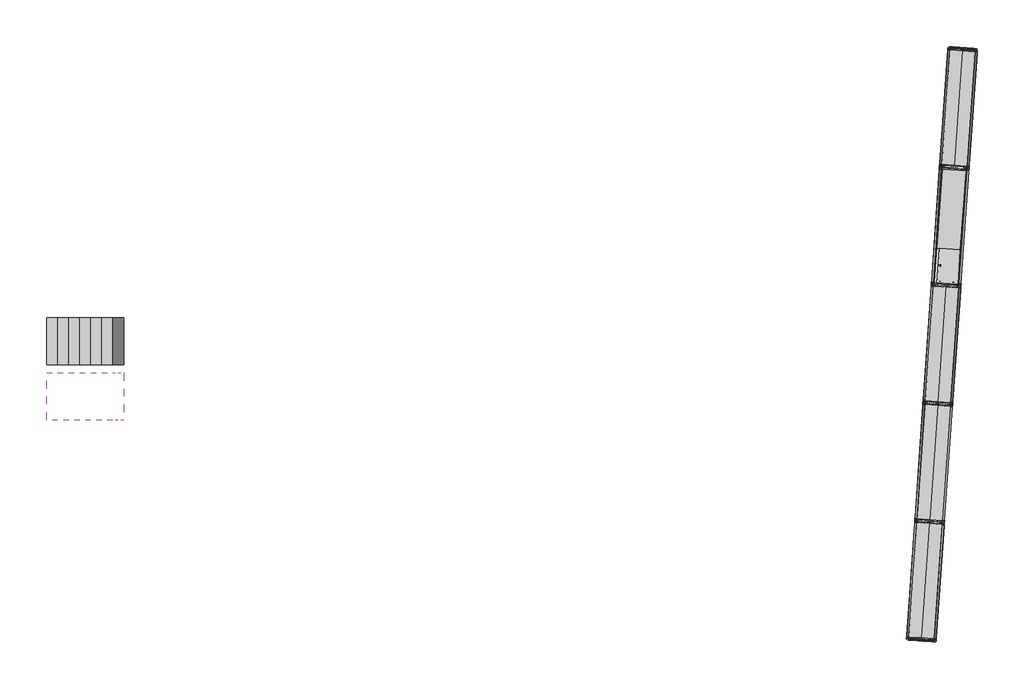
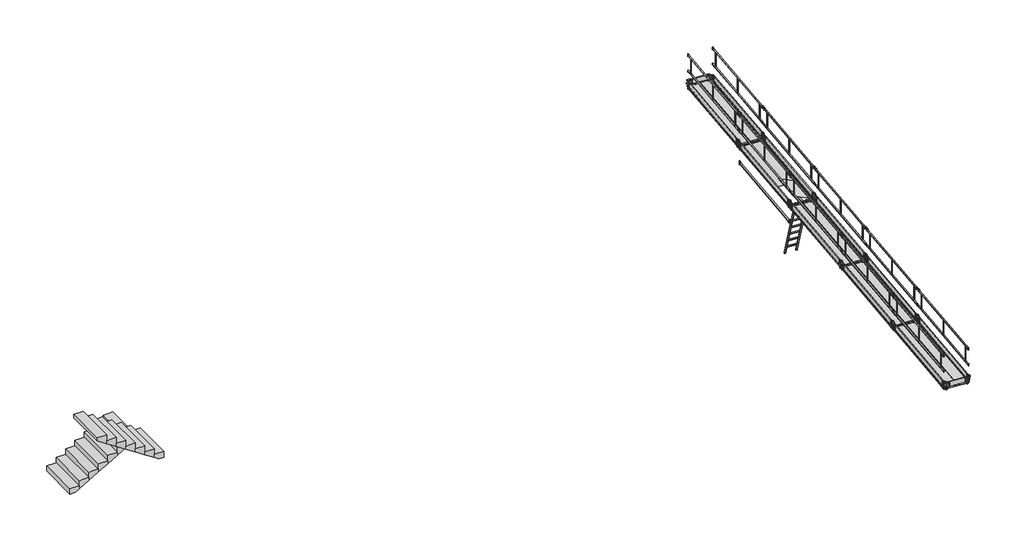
# One storey, incomplete: 55 proxies, 2 stair flights.
"""IFC4 building model written with IfcOpenShell, lengths in millimetres."""

from ifc_helpers import new_model, si_unit, origin, place, context, project, spatial, faceted_brep, transform, mapped, element, save
from components import generic_models_b6224320, generic_models_870fb608, generic_models_6026e95e, generic_models_c9bf4d4e, generic_models_8fe25d63, proxy_03_lisse_70_0da8a22d, proxy_04_lisse_3_m_913477d2

model = new_model("IFC4")

# Units and contexts
model_context = context("Model", 3, world=origin())
ifc_project = project(units=[si_unit("LENGTHUNIT", "METRE", prefix="MILLI")], contexts=[model_context])

# Site, building, storey
site = spatial("IfcSite", under=ifc_project)
building = spatial("IfcBuilding", under=site)
storey = spatial("IfcBuildingStorey", under=building, Name="05-Plateau 5", Elevation=8400.0)

# Proxies
placement = place(None, origin())
generic_models_shape = generic_models_b6224320(model_context)
element("IfcBuildingElementProxy", 1, Name="05-Plateau 3.00 m : JPA Plateau Galva", ObjectType="05-Plateau 3.00 m : JPA Plateau Galva", at=placement, inside=storey, context=model_context, shape_type="MappedRepresentation", body=[
    mapped(generic_models_shape, transform((17696.6144519, 11330.0091436, 8400.0), x_axis=(0.06975647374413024, 0.997564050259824, 0.0), y_axis=(-0.997564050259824, 0.06975647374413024, 0.0), z_axis=(0.0, 0.0, 1.0))),
])
element("IfcBuildingElementProxy", 2, Name="05-Plateau 3.00 m : JPA Plateau Galva", ObjectType="05-Plateau 3.00 m : JPA Plateau Galva", at=placement, inside=storey, context=model_context, shape_type="MappedRepresentation", body=[
    mapped(generic_models_shape, transform((18015.8349479, 11307.687072, 8400.0), x_axis=(0.06975647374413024, 0.997564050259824, 0.0), y_axis=(-0.997564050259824, 0.06975647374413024, 0.0), z_axis=(0.0, 0.0, 1.0))),
])
element("IfcBuildingElementProxy", 3, Name="05-Plateau 3.00 m : JPA Plateau Galva", ObjectType="05-Plateau 3.00 m : JPA Plateau Galva", at=placement, inside=storey, context=model_context, shape_type="MappedRepresentation", body=[
    mapped(generic_models_shape, transform((18115.6220564, 17322.0970558, 8400.0), x_axis=(0.06975647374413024, 0.997564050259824, 0.0), y_axis=(-0.997564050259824, 0.06975647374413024, 0.0), z_axis=(0.0, 0.0, 1.0))),
])
element("IfcBuildingElementProxy", 4, Name="05-Plateau 3.00 m : JPA Plateau Galva", ObjectType="05-Plateau 3.00 m : JPA Plateau Galva", at=placement, inside=storey, context=model_context, shape_type="MappedRepresentation", body=[
    mapped(generic_models_shape, transform((18434.8425525, 17299.7749842, 8400.0), x_axis=(0.06975647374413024, 0.997564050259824, 0.0), y_axis=(-0.997564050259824, 0.06975647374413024, 0.0), z_axis=(0.0, 0.0, 1.0))),
])
element("IfcBuildingElementProxy", 5, Name="05-Plateau 3.00 m : JPA Plateau Galva", ObjectType="05-Plateau 3.00 m : JPA Plateau Galva", at=placement, inside=storey, context=model_context, shape_type="MappedRepresentation", body=[
    mapped(generic_models_shape, transform((17487.1106496, 8333.9651875, 8400.0), x_axis=(0.06975647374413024, 0.997564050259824, 0.0), y_axis=(-0.997564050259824, 0.06975647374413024, 0.0), z_axis=(0.0, 0.0, 1.0))),
])
element("IfcBuildingElementProxy", 6, Name="05-Plateau 3.00 m : JPA Plateau Galva", ObjectType="05-Plateau 3.00 m : JPA Plateau Galva", at=placement, inside=storey, context=model_context, shape_type="MappedRepresentation", body=[
    mapped(generic_models_shape, transform((17806.3311456, 8311.6431159, 8400.0), x_axis=(0.06975647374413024, 0.997564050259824, 0.0), y_axis=(-0.997564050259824, 0.06975647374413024, 0.0), z_axis=(0.0, 0.0, 1.0))),
])
element("IfcBuildingElementProxy", 7, Name="05-Plateau 3.00 m : JPA Plateau Galva", ObjectType="05-Plateau 3.00 m : JPA Plateau Galva", at=placement, inside=storey, context=model_context, shape_type="MappedRepresentation", body=[
    mapped(generic_models_shape, transform((17277.6068473, 5337.9212313, 8400.0), x_axis=(0.06975647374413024, 0.997564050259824, 0.0), y_axis=(-0.997564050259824, 0.06975647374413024, 0.0), z_axis=(0.0, 0.0, 1.0))),
])
element("IfcBuildingElementProxy", 8, Name="05-Plateau 3.00 m : JPA Plateau Galva", ObjectType="05-Plateau 3.00 m : JPA Plateau Galva", at=placement, inside=storey, context=model_context, shape_type="MappedRepresentation", body=[
    mapped(generic_models_shape, transform((17596.8273433, 5315.5991597, 8400.0), x_axis=(0.06975647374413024, 0.997564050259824, 0.0), y_axis=(-0.997564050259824, 0.06975647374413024, 0.0), z_axis=(0.0, 0.0, 1.0))),
])
generic_models_2_shape = generic_models_870fb608(model_context)
element("IfcBuildingElementProxy", 9, Name="07-Plancher trappe : JPA Plancher trappe", ObjectType="07-Plancher trappe : JPA Plancher trappe", at=placement, inside=storey, context=model_context, shape_type="MappedRepresentation", body=[
    mapped(generic_models_2_shape, transform((18603.7155246, 14267.2479276, 8400.0), x_axis=(0.06975647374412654, 0.9975640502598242, 0.0), y_axis=(-0.9975640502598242, 0.06975647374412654, 0.0), z_axis=(0.0, 0.0, 1.0))),
])
generic_models_3_shape = generic_models_6026e95e(model_context)
element("IfcBuildingElementProxy", 10, Name="11-Plinthe 0.70 : JPA Plinthe 0.70", ObjectType="11-Plinthe 0.70 : JPA Plinthe 0.70", at=placement, inside=storey, context=model_context, shape_type="MappedRepresentation", body=[
    mapped(generic_models_3_shape, transform((17293.9283677, 5332.6495195, 8400.0), x_axis=(0.9970739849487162, -0.07644258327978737, 0.0), y_axis=(0.07644258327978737, 0.9970739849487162, 0.0), z_axis=(0.0, 0.0, 1.0))),
])
element("IfcBuildingElementProxy", 11, Name="11-Plinthe 0.70 : JPA Plinthe 0.70", ObjectType="11-Plinthe 0.70 : JPA Plinthe 0.70", at=placement, inside=storey, context=model_context, shape_type="MappedRepresentation", body=[
    mapped(generic_models_3_shape, transform((18342.1895888, 20323.4833915, 8400.0), x_axis=(0.9970739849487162, -0.07644258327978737, 0.0), y_axis=(0.07644258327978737, 0.9970739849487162, 0.0), z_axis=(0.0, 0.0, 1.0))),
])
generic_models_4_shape = generic_models_c9bf4d4e(model_context)
element("IfcBuildingElementProxy", 12, Name="12-Plinthe 3 m : JPA Plinthe 3 m", ObjectType="12-Plinthe 3 m : JPA Plinthe 3 m", at=placement, inside=storey, context=model_context, shape_type="MappedRepresentation", body=[
    mapped(generic_models_4_shape, transform((17696.788843, 11332.5030537, 8400.0), x_axis=(0.06975647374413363, 0.9975640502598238, 0.0), y_axis=(-0.9975640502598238, 0.06975647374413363, 0.0), z_axis=(0.0, 0.0, 1.0))),
])
element("IfcBuildingElementProxy", 13, Name="12-Plinthe 3 m : JPA Plinthe 3 m", ObjectType="12-Plinthe 3 m : JPA Plinthe 3 m", at=placement, inside=storey, context=model_context, shape_type="MappedRepresentation", body=[
    mapped(generic_models_4_shape, transform((18395.0836782, 11283.6735221, 8400.0), x_axis=(0.06975647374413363, 0.9975640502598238, 0.0), y_axis=(-0.9975640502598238, 0.06975647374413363, 0.0), z_axis=(0.0, 0.0, 1.0))),
])
element("IfcBuildingElementProxy", 14, Name="12-Plinthe 3 m : JPA Plinthe 3 m", ObjectType="12-Plinthe 3 m : JPA Plinthe 3 m", at=placement, inside=storey, context=model_context, shape_type="MappedRepresentation", body=[
    mapped(generic_models_4_shape, transform((17906.2926453, 14328.5470098, 8400.0), x_axis=(0.06975647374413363, 0.9975640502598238, 0.0), y_axis=(-0.9975640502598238, 0.06975647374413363, 0.0), z_axis=(0.0, 0.0, 1.0))),
])
element("IfcBuildingElementProxy", 15, Name="12-Plinthe 3 m : JPA Plinthe 3 m", ObjectType="12-Plinthe 3 m : JPA Plinthe 3 m", at=placement, inside=storey, context=model_context, shape_type="MappedRepresentation", body=[
    mapped(generic_models_4_shape, transform((18604.5874805, 14279.7174782, 8400.0), x_axis=(0.06975647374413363, 0.9975640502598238, 0.0), y_axis=(-0.9975640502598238, 0.06975647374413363, 0.0), z_axis=(0.0, 0.0, 1.0))),
])
element("IfcBuildingElementProxy", 16, Name="12-Plinthe 3 m : JPA Plinthe 3 m", ObjectType="12-Plinthe 3 m : JPA Plinthe 3 m", at=placement, inside=storey, context=model_context, shape_type="MappedRepresentation", body=[
    mapped(generic_models_4_shape, transform((18115.7964476, 17324.590966, 8400.0), x_axis=(0.06975647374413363, 0.9975640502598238, 0.0), y_axis=(-0.9975640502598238, 0.06975647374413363, 0.0), z_axis=(0.0, 0.0, 1.0))),
])
element("IfcBuildingElementProxy", 17, Name="12-Plinthe 3 m : JPA Plinthe 3 m", ObjectType="12-Plinthe 3 m : JPA Plinthe 3 m", at=placement, inside=storey, context=model_context, shape_type="MappedRepresentation", body=[
    mapped(generic_models_4_shape, transform((18814.0912828, 17275.7614343, 8400.0), x_axis=(0.06975647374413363, 0.9975640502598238, 0.0), y_axis=(-0.9975640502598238, 0.06975647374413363, 0.0), z_axis=(0.0, 0.0, 1.0))),
])
element("IfcBuildingElementProxy", 18, Name="12-Plinthe 3 m : JPA Plinthe 3 m", ObjectType="12-Plinthe 3 m : JPA Plinthe 3 m", at=placement, inside=storey, context=model_context, shape_type="MappedRepresentation", body=[
    mapped(generic_models_4_shape, transform((17487.2850407, 8336.4590976, 8400.0), x_axis=(0.06975647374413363, 0.9975640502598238, 0.0), y_axis=(-0.9975640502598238, 0.06975647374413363, 0.0), z_axis=(0.0, 0.0, 1.0))),
])
element("IfcBuildingElementProxy", 19, Name="12-Plinthe 3 m : JPA Plinthe 3 m", ObjectType="12-Plinthe 3 m : JPA Plinthe 3 m", at=placement, inside=storey, context=model_context, shape_type="MappedRepresentation", body=[
    mapped(generic_models_4_shape, transform((18185.5798759, 8287.629566, 8400.0), x_axis=(0.06975647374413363, 0.9975640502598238, 0.0), y_axis=(-0.9975640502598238, 0.06975647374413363, 0.0), z_axis=(0.0, 0.0, 1.0))),
])
element("IfcBuildingElementProxy", 20, Name="12-Plinthe 3 m : JPA Plinthe 3 m", ObjectType="12-Plinthe 3 m : JPA Plinthe 3 m", at=placement, inside=storey, context=model_context, shape_type="MappedRepresentation", body=[
    mapped(generic_models_4_shape, transform((17277.7812384, 5340.4151415, 8400.0), x_axis=(0.06975647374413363, 0.9975640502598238, 0.0), y_axis=(-0.9975640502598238, 0.06975647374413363, 0.0), z_axis=(0.0, 0.0, 1.0))),
])
element("IfcBuildingElementProxy", 21, Name="12-Plinthe 3 m : JPA Plinthe 3 m", ObjectType="12-Plinthe 3 m : JPA Plinthe 3 m", at=placement, inside=storey, context=model_context, shape_type="MappedRepresentation", body=[
    mapped(generic_models_4_shape, transform((17976.0760736, 5291.5856098, 8400.0), x_axis=(0.06975647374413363, 0.9975640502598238, 0.0), y_axis=(-0.9975640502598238, 0.06975647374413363, 0.0), z_axis=(0.0, 0.0, 1.0))),
])
generic_models_5_shape = generic_models_8fe25d63(model_context)
element("IfcBuildingElementProxy", 22, Name="14-Garde corps 300 : JPA Garde corps 300", ObjectType="14-Garde corps 300 : JPA Garde corps 300", at=placement, inside=storey, context=model_context, shape_type="MappedRepresentation", body=[
    mapped(generic_models_5_shape, transform((17696.7673576, 11331.7493383, 8400.0), x_axis=(0.06975647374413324, 0.9975640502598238, 0.0), y_axis=(-0.9975640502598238, 0.06975647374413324, 0.0), z_axis=(0.0, 0.0, 1.0))),
])
element("IfcBuildingElementProxy", 23, Name="14-Garde corps 300 : JPA Garde corps 300", ObjectType="14-Garde corps 300 : JPA Garde corps 300", at=placement, inside=storey, context=model_context, shape_type="MappedRepresentation", body=[
    mapped(generic_models_5_shape, transform((17906.2711598, 14327.7932944, 8400.0), x_axis=(0.06975647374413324, 0.9975640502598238, 0.0), y_axis=(-0.9975640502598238, 0.06975647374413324, 0.0), z_axis=(0.0, 0.0, 1.0))),
])
element("IfcBuildingElementProxy", 24, Name="14-Garde corps 300 : JPA Garde corps 300", ObjectType="14-Garde corps 300 : JPA Garde corps 300", at=placement, inside=storey, context=model_context, shape_type="MappedRepresentation", body=[
    mapped(generic_models_5_shape, transform((18115.7749621, 17323.8372506, 8400.0), x_axis=(0.06975647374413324, 0.9975640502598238, 0.0), y_axis=(-0.9975640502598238, 0.06975647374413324, 0.0), z_axis=(0.0, 0.0, 1.0))),
])
element("IfcBuildingElementProxy", 25, Name="14-Garde corps 300 : JPA Garde corps 300", ObjectType="14-Garde corps 300 : JPA Garde corps 300", at=placement, inside=storey, context=model_context, shape_type="MappedRepresentation", body=[
    mapped(generic_models_5_shape, transform((17487.2635553, 8335.7053822, 8400.0), x_axis=(0.06975647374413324, 0.9975640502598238, 0.0), y_axis=(-0.9975640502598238, 0.06975647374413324, 0.0), z_axis=(0.0, 0.0, 1.0))),
])
element("IfcBuildingElementProxy", 26, Name="14-Garde corps 300 : JPA Garde corps 300", ObjectType="14-Garde corps 300 : JPA Garde corps 300", at=placement, inside=storey, context=model_context, shape_type="MappedRepresentation", body=[
    mapped(generic_models_5_shape, transform((18814.2002275, 17273.8372506, 8400.0), x_axis=(0.06975647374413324, 0.9975640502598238, 0.0), y_axis=(-0.9975640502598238, 0.06975647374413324, 0.0), z_axis=(0.0, 0.0, 1.0))),
])
element("IfcBuildingElementProxy", 27, Name="14-Garde corps 300 : JPA Garde corps 300", ObjectType="14-Garde corps 300 : JPA Garde corps 300", at=placement, inside=storey, context=model_context, shape_type="MappedRepresentation", body=[
    mapped(generic_models_5_shape, transform((18604.2002275, 14273.8372506, 8400.0), x_axis=(0.06975647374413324, 0.9975640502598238, 0.0), y_axis=(-0.9975640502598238, 0.06975647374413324, 0.0), z_axis=(0.0, 0.0, 1.0))),
])
element("IfcBuildingElementProxy", 28, Name="14-Garde corps 300 : JPA Garde corps 300", ObjectType="14-Garde corps 300 : JPA Garde corps 300", at=placement, inside=storey, context=model_context, shape_type="MappedRepresentation", body=[
    mapped(generic_models_5_shape, transform((18394.9308063, 11281.1450998, 8400.0), x_axis=(0.06975647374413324, 0.9975640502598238, 0.0), y_axis=(-0.9975640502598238, 0.06975647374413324, 0.0), z_axis=(0.0, 0.0, 1.0))),
])
element("IfcBuildingElementProxy", 29, Name="14-Garde corps 300 : JPA Garde corps 300", ObjectType="14-Garde corps 300 : JPA Garde corps 300", at=placement, inside=storey, context=model_context, shape_type="MappedRepresentation", body=[
    mapped(generic_models_5_shape, transform((18185.427004, 8285.1011437, 8400.0), x_axis=(0.06975647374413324, 0.9975640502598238, 0.0), y_axis=(-0.9975640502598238, 0.06975647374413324, 0.0), z_axis=(0.0, 0.0, 1.0))),
])
element("IfcBuildingElementProxy", 30, Name="14-Garde corps 300 : JPA Garde corps 300", ObjectType="14-Garde corps 300 : JPA Garde corps 300", at=placement, inside=storey, context=model_context, shape_type="MappedRepresentation", body=[
    mapped(generic_models_5_shape, transform((17277.759753, 5339.6614261, 8400.0), x_axis=(0.06975647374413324, 0.9975640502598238, 0.0), y_axis=(-0.9975640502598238, 0.06975647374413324, 0.0), z_axis=(0.0, 0.0, 1.0))),
])
element("IfcBuildingElementProxy", 31, Name="14-Garde corps 300 : JPA Garde corps 300", ObjectType="14-Garde corps 300 : JPA Garde corps 300", at=placement, inside=storey, context=model_context, shape_type="MappedRepresentation", body=[
    mapped(generic_models_5_shape, transform((17975.9232017, 5289.0571875, 8400.0), x_axis=(0.06975647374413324, 0.9975640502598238, 0.0), y_axis=(-0.9975640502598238, 0.06975647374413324, 0.0), z_axis=(0.0, 0.0, 1.0))),
])
proxy_03_lisse_70_shape = proxy_03_lisse_70_0da8a22d(model_context)
element("IfcBuildingElementProxy", 32, Name="03-Lisse 70 : JPA Lisse Galva", ObjectType="03-Lisse 70 : JPA Lisse Galva", at=placement, inside=storey, context=model_context, shape_type="MappedRepresentation", body=[
    mapped(proxy_03_lisse_70_shape, transform((17687.6637048, 11325.7592688, 8400.0), x_axis=(0.9975640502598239, -0.06975647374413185, 0.0), y_axis=(0.06975647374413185, 0.9975640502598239, 0.0), z_axis=(0.0, 0.0, 1.0))),
])
element("IfcBuildingElementProxy", 33, Name="03-Lisse 70 : JPA Lisse Galva", ObjectType="03-Lisse 70 : JPA Lisse Galva", at=placement, inside=storey, context=model_context, shape_type="MappedRepresentation", body=[
    mapped(proxy_03_lisse_70_shape, transform((17897.1675071, 14321.8032249, 8400.0), x_axis=(0.9975640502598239, -0.06975647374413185, 0.0), y_axis=(0.06975647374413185, 0.9975640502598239, 0.0), z_axis=(0.0, 0.0, 1.0))),
])
element("IfcBuildingElementProxy", 34, Name="03-Lisse 70 : JPA Lisse Galva", ObjectType="03-Lisse 70 : JPA Lisse Galva", at=placement, inside=storey, context=model_context, shape_type="MappedRepresentation", body=[
    mapped(proxy_03_lisse_70_shape, transform((18106.6713094, 17317.847181, 8400.0), x_axis=(0.9975640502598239, -0.06975647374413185, 0.0), y_axis=(0.06975647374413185, 0.9975640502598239, 0.0), z_axis=(0.0, 0.0, 1.0))),
])
element("IfcBuildingElementProxy", 35, Name="03-Lisse 70 : JPA Lisse Galva", ObjectType="03-Lisse 70 : JPA Lisse Galva", at=placement, inside=storey, context=model_context, shape_type="MappedRepresentation", body=[
    mapped(proxy_03_lisse_70_shape, transform((18311.1751117, 20323.8911372, 8400.0), x_axis=(0.9975640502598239, -0.06975647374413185, 0.0), y_axis=(0.06975647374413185, 0.9975640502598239, 0.0), z_axis=(0.0, 0.0, 1.0))),
])
element("IfcBuildingElementProxy", 36, Name="03-Lisse 70 : JPA Lisse Galva", ObjectType="03-Lisse 70 : JPA Lisse Galva", at=placement, inside=storey, context=model_context, shape_type="MappedRepresentation", body=[
    mapped(proxy_03_lisse_70_shape, transform((17478.1599025, 8329.7153127, 8400.0), x_axis=(0.9975640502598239, -0.06975647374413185, 0.0), y_axis=(0.06975647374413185, 0.9975640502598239, 0.0), z_axis=(0.0, 0.0, 1.0))),
])
element("IfcBuildingElementProxy", 37, Name="03-Lisse 70 : JPA Lisse Galva", ObjectType="03-Lisse 70 : JPA Lisse Galva", at=placement, inside=storey, context=model_context, shape_type="MappedRepresentation", body=[
    mapped(proxy_03_lisse_70_shape, transform((17478.1599025, 8329.7153127, 8400.0), x_axis=(0.9975640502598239, -0.06975647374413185, 0.0), y_axis=(0.06975647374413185, 0.9975640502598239, 0.0), z_axis=(0.0, 0.0, 1.0))),
])
element("IfcBuildingElementProxy", 38, Name="03-Lisse 70 : JPA Lisse Galva", ObjectType="03-Lisse 70 : JPA Lisse Galva", at=placement, inside=storey, context=model_context, shape_type="MappedRepresentation", body=[
    mapped(proxy_03_lisse_70_shape, transform((17268.6561002, 5333.6713565, 8400.0), x_axis=(0.9975640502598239, -0.06975647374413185, 0.0), y_axis=(0.06975647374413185, 0.9975640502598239, 0.0), z_axis=(0.0, 0.0, 1.0))),
])
proxy_04_lisse_3_m_shape = proxy_04_lisse_3_m_913477d2(model_context)
element("IfcBuildingElementProxy", 39, Name="04-Lisse 3 m : JPA Lisse Galva", ObjectType="04-Lisse 3 m : JPA Lisse Galva", at=placement, inside=storey, context=model_context, shape_type="MappedRepresentation", body=[
    mapped(proxy_04_lisse_3_m_shape, transform((18185.5798759, 8287.629566, 8400.0), x_axis=(0.06975647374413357, 0.9975640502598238, 0.0), y_axis=(-0.9975640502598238, 0.06975647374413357, 0.0), z_axis=(0.0, 0.0, 1.0))),
])
element("IfcBuildingElementProxy", 40, Name="04-Lisse 3 m : JPA Lisse Galva", ObjectType="04-Lisse 3 m : JPA Lisse Galva", at=placement, inside=storey, context=model_context, shape_type="MappedRepresentation", body=[
    mapped(proxy_04_lisse_3_m_shape, transform((18394.2117223, 11271.2039715, 8400.0), x_axis=(0.06975647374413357, 0.9975640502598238, 0.0), y_axis=(-0.9975640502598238, 0.06975647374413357, 0.0), z_axis=(0.0, 0.0, 1.0))),
])
element("IfcBuildingElementProxy", 41, Name="04-Lisse 3 m : JPA Lisse Galva", ObjectType="04-Lisse 3 m : JPA Lisse Galva", at=placement, inside=storey, context=model_context, shape_type="MappedRepresentation", body=[
    mapped(proxy_04_lisse_3_m_shape, transform((18604.1764114, 14273.838916, 8400.0), x_axis=(0.06975647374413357, 0.9975640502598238, 0.0), y_axis=(-0.9975640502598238, 0.06975647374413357, 0.0), z_axis=(0.0, 0.0, 1.0))),
])
element("IfcBuildingElementProxy", 42, Name="04-Lisse 3 m : JPA Lisse Galva", ObjectType="04-Lisse 3 m : JPA Lisse Galva", at=placement, inside=storey, context=model_context, shape_type="MappedRepresentation", body=[
    mapped(proxy_04_lisse_3_m_shape, transform((18813.5502996, 17268.0250134, 8400.0), x_axis=(0.06975647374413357, 0.9975640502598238, 0.0), y_axis=(-0.9975640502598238, 0.06975647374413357, 0.0), z_axis=(0.0, 0.0, 1.0))),
])
element("IfcBuildingElementProxy", 43, Name="04-Lisse 3 m : JPA Lisse Galva", ObjectType="04-Lisse 3 m : JPA Lisse Galva", at=placement, inside=storey, context=model_context, shape_type="MappedRepresentation", body=[
    mapped(proxy_04_lisse_3_m_shape, transform((17976.0760736, 5291.5856098, 8400.0), x_axis=(0.06975647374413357, 0.9975640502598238, 0.0), y_axis=(-0.9975640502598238, 0.06975647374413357, 0.0), z_axis=(0.0, 0.0, 1.0))),
])
element("IfcBuildingElementProxy", 44, Name="04-Lisse 3 m : JPA Lisse Galva", ObjectType="04-Lisse 3 m : JPA Lisse Galva", at=placement, inside=storey, context=model_context, shape_type="MappedRepresentation", body=[
    mapped(proxy_04_lisse_3_m_shape, transform((17487.2850407, 8336.4590976, 8400.0), x_axis=(0.06975647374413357, 0.9975640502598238, 0.0), y_axis=(-0.9975640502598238, 0.06975647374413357, 0.0), z_axis=(0.0, 0.0, 1.0))),
])
element("IfcBuildingElementProxy", 45, Name="04-Lisse 3 m : JPA Lisse Galva", ObjectType="04-Lisse 3 m : JPA Lisse Galva", at=placement, inside=storey, context=model_context, shape_type="MappedRepresentation", body=[
    mapped(proxy_04_lisse_3_m_shape, transform((17695.9168871, 11320.0335031, 8400.0), x_axis=(0.06975647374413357, 0.9975640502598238, 0.0), y_axis=(-0.9975640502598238, 0.06975647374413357, 0.0), z_axis=(0.0, 0.0, 1.0))),
])
element("IfcBuildingElementProxy", 46, Name="04-Lisse 3 m : JPA Lisse Galva", ObjectType="04-Lisse 3 m : JPA Lisse Galva", at=placement, inside=storey, context=model_context, shape_type="MappedRepresentation", body=[
    mapped(proxy_04_lisse_3_m_shape, transform((17905.8815762, 14322.6684476, 8400.0), x_axis=(0.06975647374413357, 0.9975640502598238, 0.0), y_axis=(-0.9975640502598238, 0.06975647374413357, 0.0), z_axis=(0.0, 0.0, 1.0))),
])
element("IfcBuildingElementProxy", 47, Name="04-Lisse 3 m : JPA Lisse Galva", ObjectType="04-Lisse 3 m : JPA Lisse Galva", at=placement, inside=storey, context=model_context, shape_type="MappedRepresentation", body=[
    mapped(proxy_04_lisse_3_m_shape, transform((18115.2554644, 17316.8545451, 8400.0), x_axis=(0.06975647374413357, 0.9975640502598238, 0.0), y_axis=(-0.9975640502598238, 0.06975647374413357, 0.0), z_axis=(0.0, 0.0, 1.0))),
])
element("IfcBuildingElementProxy", 48, Name="04-Lisse 3 m : JPA Lisse Galva", ObjectType="04-Lisse 3 m : JPA Lisse Galva", at=placement, inside=storey, context=model_context, shape_type="MappedRepresentation", body=[
    mapped(proxy_04_lisse_3_m_shape, transform((17277.7812384, 5340.4151415, 8400.0), x_axis=(0.06975647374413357, 0.9975640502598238, 0.0), y_axis=(-0.9975640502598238, 0.06975647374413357, 0.0), z_axis=(0.0, 0.0, 1.0))),
])
element("IfcBuildingElementProxy", 49, Name="04-Lisse 3 m : JPA Lisse Galva", ObjectType="04-Lisse 3 m : JPA Lisse Galva", at=placement, inside=storey, context=model_context, shape_type="MappedRepresentation", body=[
    mapped(proxy_04_lisse_3_m_shape, transform((17500.8765554, 8353.1677495, 8400.0), x_axis=(0.06975647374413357, 0.9975640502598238, 0.0), y_axis=(-0.9975640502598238, 0.06975647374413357, 0.0), z_axis=(0.0, 0.0, 1.0))),
])
element("IfcBuildingElementProxy", 50, Name="04-Lisse 3 m : JPA Lisse Galva", ObjectType="04-Lisse 3 m : JPA Lisse Galva", at=placement, inside=storey, context=model_context, shape_type="MappedRepresentation", body=[
    mapped(proxy_04_lisse_3_m_shape, transform((17709.5084018, 11336.742155, 8400.0), x_axis=(0.06975647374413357, 0.9975640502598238, 0.0), y_axis=(-0.9975640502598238, 0.06975647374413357, 0.0), z_axis=(0.0, 0.0, 1.0))),
])
element("IfcBuildingElementProxy", 51, Name="04-Lisse 3 m : JPA Lisse Galva", ObjectType="04-Lisse 3 m : JPA Lisse Galva", at=placement, inside=storey, context=model_context, shape_type="MappedRepresentation", body=[
    mapped(proxy_04_lisse_3_m_shape, transform((17919.4730909, 14339.3770995, 8400.0), x_axis=(0.06975647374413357, 0.9975640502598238, 0.0), y_axis=(-0.9975640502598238, 0.06975647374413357, 0.0), z_axis=(0.0, 0.0, 1.0))),
])
element("IfcBuildingElementProxy", 52, Name="04-Lisse 3 m : JPA Lisse Galva", ObjectType="04-Lisse 3 m : JPA Lisse Galva", at=placement, inside=storey, context=model_context, shape_type="MappedRepresentation", body=[
    mapped(proxy_04_lisse_3_m_shape, transform((18128.846979, 17333.563197, 8400.0), x_axis=(0.06975647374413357, 0.9975640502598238, 0.0), y_axis=(-0.9975640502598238, 0.06975647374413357, 0.0), z_axis=(0.0, 0.0, 1.0))),
])
element("IfcBuildingElementProxy", 53, Name="04-Lisse 3 m : JPA Lisse Galva", ObjectType="04-Lisse 3 m : JPA Lisse Galva", at=placement, inside=storey, context=model_context, shape_type="MappedRepresentation", body=[
    mapped(proxy_04_lisse_3_m_shape, transform((17291.3727531, 5357.1237934, 8400.0), x_axis=(0.06975647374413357, 0.9975640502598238, 0.0), y_axis=(-0.9975640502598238, 0.06975647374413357, 0.0), z_axis=(0.0, 0.0, 1.0))),
])
element("IfcBuildingElementProxy", 54, Name="04-Lisse 3 m : JPA Lisse Galva", ObjectType="04-Lisse 3 m : JPA Lisse Galva", at=placement, inside=storey, context=model_context, shape_type="MappedRepresentation", body=[
    mapped(proxy_04_lisse_3_m_shape, transform((18604.1764114, 14271.2936372, 7904.432796), x_axis=(0.06975647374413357, 0.9975640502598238, 0.0), y_axis=(-0.9975640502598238, 0.06975647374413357, 0.0), z_axis=(0.0, 0.0, 1.0))),
])
element("IfcBuildingElementProxy", 55, Name="04-Lisse 3 m : JPA Lisse Galva", ObjectType="04-Lisse 3 m : JPA Lisse Galva", at=placement, inside=storey, context=model_context, shape_type="MappedRepresentation", body=[
    mapped(proxy_04_lisse_3_m_shape, transform((17919.4730909, 14336.8318207, 7904.432796), x_axis=(0.06975647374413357, 0.9975640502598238, 0.0), y_axis=(-0.9975640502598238, 0.06975647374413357, 0.0), z_axis=(0.0, 0.0, 1.0))),
])

# Stair flights
element("IfcStairFlight", 56, ObjectType="Profondeur de structure 80 mm", at=placement, inside=storey, context=model_context, shape_type="Brep", body=[
    faceted_brep([(-4270.4151884, 13479.8622276, 8655.0), (-4550.4151884, 13479.8622276, 8655.0), (-4550.4151884, 12279.8622276, 8655.0), (-4270.4151884, 12279.8622276, 8655.0), (-4270.4151884, 13479.8622276, 8562.1428571), (-4392.8394308, 13479.8622276, 8490.0), (-4550.4151884, 13479.8622276, 8490.0), (-4550.4151884, 12279.8622276, 8490.0), (-4392.8394308, 12279.8622276, 8490.0), (-4270.4151884, 12279.8622276, 8562.1428571), (-3990.4151884, 13479.8622276, 8820.0), (-4270.4151884, 13479.8622276, 8820.0), (-4270.4151884, 12279.8622276, 8820.0), (-3990.4151884, 12279.8622276, 8820.0), (-3990.4151884, 13479.8622276, 8727.1428571), (-3990.4151884, 12279.8622276, 8727.1428571), (-3710.4151884, 13479.8622276, 8985.0), (-3990.4151884, 13479.8622276, 8985.0), (-3990.4151884, 12279.8622276, 8985.0), (-3710.4151884, 12279.8622276, 8985.0), (-3710.4151884, 13479.8622276, 8892.1428571), (-3710.4151884, 12279.8622276, 8892.1428571), (-3430.4151884, 13479.8622276, 9150.0), (-3710.4151884, 13479.8622276, 9150.0), (-3710.4151884, 12279.8622276, 9150.0), (-3430.4151884, 12279.8622276, 9150.0), (-3430.4151884, 13479.8622276, 9057.1428571), (-3430.4151884, 12279.8622276, 9057.1428571), (-3150.4151884, 13479.8622276, 9315.0), (-3430.4151884, 13479.8622276, 9315.0), (-3430.4151884, 12279.8622276, 9315.0), (-3150.4151884, 12279.8622276, 9315.0), (-3150.4151884, 13479.8622276, 9222.1428571), (-3150.4151884, 12279.8622276, 9222.1428571), (-2870.4151884, 13479.8622276, 9480.0), (-3150.4151884, 13479.8622276, 9480.0), (-3150.4151884, 12279.8622276, 9480.0), (-2870.4151884, 12279.8622276, 9480.0), (-2870.4151884, 13479.8622276, 9387.1428571), (-2870.4151884, 12279.8622276, 9387.1428571), (-2590.4151884, 13479.8622276, 9645.0), (-2870.4151884, 13479.8622276, 9645.0), (-2870.4151884, 12279.8622276, 9645.0), (-2590.4151884, 12279.8622276, 9645.0), (-2590.4151884, 13479.8622276, 9552.1428571), (-2590.4151884, 12279.8622276, 9552.1428571)], [[[0, 1, 2, 3]], [[1, 0, 4, 5, 6]], [[2, 1, 6, 7]], [[3, 2, 7, 8, 9]], [[10, 11, 12, 13]], [[11, 10, 14, 4, 0]], [[0, 3, 12, 11]], [[13, 12, 3, 9, 15]], [[16, 17, 18, 19]], [[17, 16, 20, 14, 10]], [[10, 13, 18, 17]], [[19, 18, 13, 15, 21]], [[22, 23, 24, 25]], [[23, 22, 26, 20, 16]], [[16, 19, 24, 23]], [[25, 24, 19, 21, 27]], [[28, 29, 30, 31]], [[29, 28, 32, 26, 22]], [[22, 25, 30, 29]], [[31, 30, 25, 27, 33]], [[34, 35, 36, 37]], [[35, 34, 38, 32, 28]], [[28, 31, 36, 35]], [[37, 36, 31, 33, 39]], [[40, 41, 42, 43]], [[41, 40, 44, 38, 34]], [[34, 37, 42, 41]], [[43, 42, 37, 39, 45]], [[40, 43, 45, 44]], [[7, 6, 5, 8]], [[8, 5, 4, 14, 20, 26, 32, 38, 44, 45, 39, 33, 27, 21, 15, 9]]]),
])
element("IfcStairFlight", 57, ObjectType="Profondeur de structure 80 mm", at=placement, inside=storey, context=model_context, shape_type="Brep", body=[
    faceted_brep([(-2870.4151884, 10879.8622276, 9994.5454545), (-2590.4151884, 10879.8622276, 9994.5454545), (-2590.4151884, 12079.8622276, 9994.5454545), (-2870.4151884, 12079.8622276, 9994.5454545), (-2870.4151884, 10879.8622276, 9898.7322754), (-2735.7869084, 10879.8622276, 9810.0), (-2590.4151884, 10879.8622276, 9810.0), (-2590.4151884, 12079.8622276, 9810.0), (-2735.7869084, 12079.8622276, 9810.0), (-2870.4151884, 12079.8622276, 9898.7322754), (-3150.4151884, 10879.8622276, 10179.0909091), (-2870.4151884, 10879.8622276, 10179.0909091), (-2870.4151884, 12079.8622276, 10179.0909091), (-3150.4151884, 12079.8622276, 10179.0909091), (-3150.4151884, 10879.8622276, 10083.27773), (-3150.4151884, 12079.8622276, 10083.27773), (-3430.4151884, 10879.8622276, 10363.6363636), (-3150.4151884, 10879.8622276, 10363.6363636), (-3150.4151884, 12079.8622276, 10363.6363636), (-3430.4151884, 12079.8622276, 10363.6363636), (-3430.4151884, 10879.8622276, 10267.8231845), (-3430.4151884, 12079.8622276, 10267.8231845), (-3710.4151884, 10879.8622276, 10548.1818182), (-3430.4151884, 10879.8622276, 10548.1818182), (-3430.4151884, 12079.8622276, 10548.1818182), (-3710.4151884, 12079.8622276, 10548.1818182), (-3710.4151884, 10879.8622276, 10452.3686391), (-3710.4151884, 12079.8622276, 10452.3686391), (-3990.4151884, 10879.8622276, 10732.7272727), (-3710.4151884, 10879.8622276, 10732.7272727), (-3710.4151884, 12079.8622276, 10732.7272727), (-3990.4151884, 12079.8622276, 10732.7272727), (-3990.4151884, 10879.8622276, 10636.9140936), (-3990.4151884, 12079.8622276, 10636.9140936), (-4270.4151884, 10879.8622276, 10917.2727273), (-3990.4151884, 10879.8622276, 10917.2727273), (-3990.4151884, 12079.8622276, 10917.2727273), (-4270.4151884, 12079.8622276, 10917.2727273), (-4270.4151884, 10879.8622276, 10821.4595482), (-4270.4151884, 12079.8622276, 10821.4595482), (-4550.4151884, 10879.8622276, 11101.8181818), (-4270.4151884, 10879.8622276, 11101.8181818), (-4270.4151884, 12079.8622276, 11101.8181818), (-4550.4151884, 12079.8622276, 11101.8181818), (-4550.4151884, 10879.8622276, 11006.0050027), (-4550.4151884, 12079.8622276, 11006.0050027)], [[[0, 1, 2, 3]], [[1, 0, 4, 5, 6]], [[2, 1, 6, 7]], [[3, 2, 7, 8, 9]], [[10, 11, 12, 13]], [[11, 10, 14, 4, 0]], [[0, 3, 12, 11]], [[13, 12, 3, 9, 15]], [[16, 17, 18, 19]], [[17, 16, 20, 14, 10]], [[10, 13, 18, 17]], [[19, 18, 13, 15, 21]], [[22, 23, 24, 25]], [[23, 22, 26, 20, 16]], [[16, 19, 24, 23]], [[25, 24, 19, 21, 27]], [[28, 29, 30, 31]], [[29, 28, 32, 26, 22]], [[22, 25, 30, 29]], [[31, 30, 25, 27, 33]], [[34, 35, 36, 37]], [[35, 34, 38, 32, 28]], [[28, 31, 36, 35]], [[37, 36, 31, 33, 39]], [[40, 41, 42, 43]], [[41, 40, 44, 38, 34]], [[34, 37, 42, 41]], [[43, 42, 37, 39, 45]], [[40, 43, 45, 44]], [[7, 6, 5, 8]], [[8, 5, 4, 14, 20, 26, 32, 38, 44, 45, 39, 33, 27, 21, 15, 9]]]),
])

save(model, "model.ifc")
